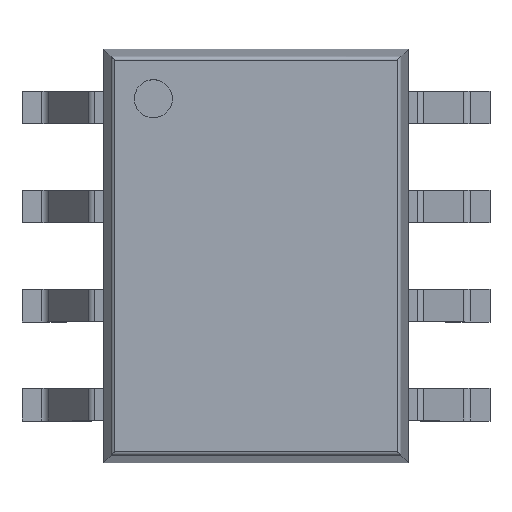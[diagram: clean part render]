
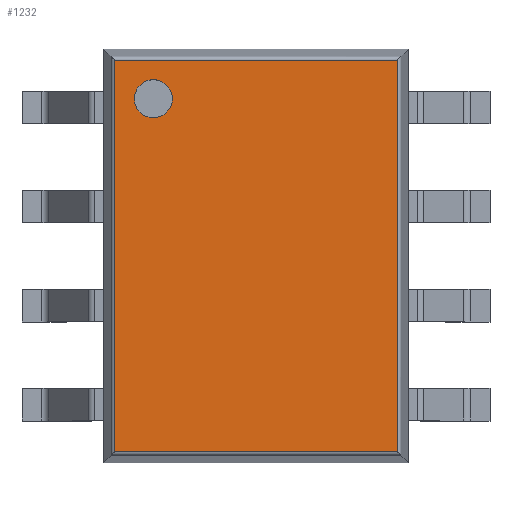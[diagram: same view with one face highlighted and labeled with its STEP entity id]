
A CAD part, top view. The second image highlights one B-rep face of the part: STEP entity #1232.
In plain terms, the highlighted planar face has unit normal (0, 0, 1).
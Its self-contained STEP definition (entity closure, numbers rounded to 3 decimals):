
#829 = CYLINDRICAL_SURFACE('',#830,0.05);
#830 = AXIS2_PLACEMENT_3D('',#831,#832,#833);
#831 = CARTESIAN_POINT('',(-1.809,-2.553,1.7));
#832 = DIRECTION('',(0.,1.,0.));
#833 = DIRECTION('',(-0.992,0.,0.129));
#971 = CYLINDRICAL_SURFACE('',#972,0.05);
#972 = AXIS2_PLACEMENT_3D('',#973,#974,#975);
#973 = CARTESIAN_POINT('',(-1.853,-2.509,1.7));
#974 = DIRECTION('',(1.,0.,0.));
#975 = DIRECTION('',(0.,-0.992,0.129));
#987 = VERTEX_POINT('',#988);
#988 = CARTESIAN_POINT('',(-1.809,-2.509,1.75));
#1022 = EDGE_CURVE('',#987,#1023,#1025,.T.);
#1023 = VERTEX_POINT('',#1024);
#1024 = CARTESIAN_POINT('',(-1.809,2.509,1.75));
#1025 = SURFACE_CURVE('',#1026,(#1030,#1037),.PCURVE_S1.);
#1026 = LINE('',#1027,#1028);
#1027 = CARTESIAN_POINT('',(-1.809,-2.553,1.75));
#1028 = VECTOR('',#1029,1.);
#1029 = DIRECTION('',(0.,1.,0.));
#1030 = PCURVE('',#829,#1031);
#1031 = DEFINITIONAL_REPRESENTATION('',(#1032),#1036);
#1032 = LINE('',#1033,#1034);
#1033 = CARTESIAN_POINT('',(1.442,0.));
#1034 = VECTOR('',#1035,1.);
#1035 = DIRECTION('',(0.,1.));
#1036 = ( GEOMETRIC_REPRESENTATION_CONTEXT(2) 
PARAMETRIC_REPRESENTATION_CONTEXT() REPRESENTATION_CONTEXT('2D SPACE',''
  ) );
#1037 = PCURVE('',#1038,#1043);
#1038 = PLANE('',#1039);
#1039 = AXIS2_PLACEMENT_3D('',#1040,#1041,#1042);
#1040 = CARTESIAN_POINT('',(-1.95,-2.65,1.75));
#1041 = DIRECTION('',(0.,0.,1.));
#1042 = DIRECTION('',(1.,0.,0.));
#1043 = DEFINITIONAL_REPRESENTATION('',(#1044),#1048);
#1044 = LINE('',#1045,#1046);
#1045 = CARTESIAN_POINT('',(0.141,0.098));
#1046 = VECTOR('',#1047,1.);
#1047 = DIRECTION('',(0.,1.));
#1048 = ( GEOMETRIC_REPRESENTATION_CONTEXT(2) 
PARAMETRIC_REPRESENTATION_CONTEXT() REPRESENTATION_CONTEXT('2D SPACE',''
  ) );
#1071 = CYLINDRICAL_SURFACE('',#1072,0.05);
#1072 = AXIS2_PLACEMENT_3D('',#1073,#1074,#1075);
#1073 = CARTESIAN_POINT('',(-1.853,2.509,1.7));
#1074 = DIRECTION('',(1.,0.,0.));
#1075 = DIRECTION('',(0.,0.,1.));
#1159 = CYLINDRICAL_SURFACE('',#1160,0.05);
#1160 = AXIS2_PLACEMENT_3D('',#1161,#1162,#1163);
#1161 = CARTESIAN_POINT('',(1.809,-2.553,1.7));
#1162 = DIRECTION('',(0.,1.,0.));
#1163 = DIRECTION('',(0.,0.,1.));
#1175 = EDGE_CURVE('',#987,#1176,#1178,.T.);
#1176 = VERTEX_POINT('',#1177);
#1177 = CARTESIAN_POINT('',(1.809,-2.509,1.75));
#1178 = SURFACE_CURVE('',#1179,(#1183,#1190),.PCURVE_S1.);
#1179 = LINE('',#1180,#1181);
#1180 = CARTESIAN_POINT('',(-1.853,-2.509,1.75));
#1181 = VECTOR('',#1182,1.);
#1182 = DIRECTION('',(1.,0.,0.));
#1183 = PCURVE('',#971,#1184);
#1184 = DEFINITIONAL_REPRESENTATION('',(#1185),#1189);
#1185 = LINE('',#1186,#1187);
#1186 = CARTESIAN_POINT('',(-1.442,0.));
#1187 = VECTOR('',#1188,1.);
#1188 = DIRECTION('',(-0.,1.));
#1189 = ( GEOMETRIC_REPRESENTATION_CONTEXT(2) 
PARAMETRIC_REPRESENTATION_CONTEXT() REPRESENTATION_CONTEXT('2D SPACE',''
  ) );
#1190 = PCURVE('',#1038,#1191);
#1191 = DEFINITIONAL_REPRESENTATION('',(#1192),#1196);
#1192 = LINE('',#1193,#1194);
#1193 = CARTESIAN_POINT('',(0.098,0.141));
#1194 = VECTOR('',#1195,1.);
#1195 = DIRECTION('',(1.,0.));
#1196 = ( GEOMETRIC_REPRESENTATION_CONTEXT(2) 
PARAMETRIC_REPRESENTATION_CONTEXT() REPRESENTATION_CONTEXT('2D SPACE',''
  ) );
#1232 = ADVANCED_FACE('',(#1233,#1281),#1038,.T.);
#1233 = FACE_BOUND('',#1234,.T.);
#1234 = EDGE_LOOP('',(#1235,#1236,#1237,#1260));
#1235 = ORIENTED_EDGE('',*,*,#1022,.F.);
#1236 = ORIENTED_EDGE('',*,*,#1175,.T.);
#1237 = ORIENTED_EDGE('',*,*,#1238,.T.);
#1238 = EDGE_CURVE('',#1176,#1239,#1241,.T.);
#1239 = VERTEX_POINT('',#1240);
#1240 = CARTESIAN_POINT('',(1.809,2.509,1.75));
#1241 = SURFACE_CURVE('',#1242,(#1246,#1253),.PCURVE_S1.);
#1242 = LINE('',#1243,#1244);
#1243 = CARTESIAN_POINT('',(1.809,-2.553,1.75));
#1244 = VECTOR('',#1245,1.);
#1245 = DIRECTION('',(0.,1.,0.));
#1246 = PCURVE('',#1038,#1247);
#1247 = DEFINITIONAL_REPRESENTATION('',(#1248),#1252);
#1248 = LINE('',#1249,#1250);
#1249 = CARTESIAN_POINT('',(3.759,0.098));
#1250 = VECTOR('',#1251,1.);
#1251 = DIRECTION('',(0.,1.));
#1252 = ( GEOMETRIC_REPRESENTATION_CONTEXT(2) 
PARAMETRIC_REPRESENTATION_CONTEXT() REPRESENTATION_CONTEXT('2D SPACE',''
  ) );
#1253 = PCURVE('',#1159,#1254);
#1254 = DEFINITIONAL_REPRESENTATION('',(#1255),#1259);
#1255 = LINE('',#1256,#1257);
#1256 = CARTESIAN_POINT('',(0.,0.));
#1257 = VECTOR('',#1258,1.);
#1258 = DIRECTION('',(0.,1.));
#1259 = ( GEOMETRIC_REPRESENTATION_CONTEXT(2) 
PARAMETRIC_REPRESENTATION_CONTEXT() REPRESENTATION_CONTEXT('2D SPACE',''
  ) );
#1260 = ORIENTED_EDGE('',*,*,#1261,.F.);
#1261 = EDGE_CURVE('',#1023,#1239,#1262,.T.);
#1262 = SURFACE_CURVE('',#1263,(#1267,#1274),.PCURVE_S1.);
#1263 = LINE('',#1264,#1265);
#1264 = CARTESIAN_POINT('',(-1.853,2.509,1.75));
#1265 = VECTOR('',#1266,1.);
#1266 = DIRECTION('',(1.,0.,0.));
#1267 = PCURVE('',#1038,#1268);
#1268 = DEFINITIONAL_REPRESENTATION('',(#1269),#1273);
#1269 = LINE('',#1270,#1271);
#1270 = CARTESIAN_POINT('',(0.098,5.159));
#1271 = VECTOR('',#1272,1.);
#1272 = DIRECTION('',(1.,0.));
#1273 = ( GEOMETRIC_REPRESENTATION_CONTEXT(2) 
PARAMETRIC_REPRESENTATION_CONTEXT() REPRESENTATION_CONTEXT('2D SPACE',''
  ) );
#1274 = PCURVE('',#1071,#1275);
#1275 = DEFINITIONAL_REPRESENTATION('',(#1276),#1280);
#1276 = LINE('',#1277,#1278);
#1277 = CARTESIAN_POINT('',(-0.,0.));
#1278 = VECTOR('',#1279,1.);
#1279 = DIRECTION('',(-0.,1.));
#1280 = ( GEOMETRIC_REPRESENTATION_CONTEXT(2) 
PARAMETRIC_REPRESENTATION_CONTEXT() REPRESENTATION_CONTEXT('2D SPACE',''
  ) );
#1281 = FACE_BOUND('',#1282,.T.);
#1282 = EDGE_LOOP('',(#1283));
#1283 = ORIENTED_EDGE('',*,*,#1284,.F.);
#1284 = EDGE_CURVE('',#1285,#1285,#1287,.T.);
#1285 = VERTEX_POINT('',#1286);
#1286 = CARTESIAN_POINT('',(-1.071,2.015,1.75));
#1287 = SURFACE_CURVE('',#1288,(#1293,#1300),.PCURVE_S1.);
#1288 = CIRCLE('',#1289,0.244);
#1289 = AXIS2_PLACEMENT_3D('',#1290,#1291,#1292);
#1290 = CARTESIAN_POINT('',(-1.315,2.015,1.75));
#1291 = DIRECTION('',(0.,0.,1.));
#1292 = DIRECTION('',(1.,0.,0.));
#1293 = PCURVE('',#1038,#1294);
#1294 = DEFINITIONAL_REPRESENTATION('',(#1295),#1299);
#1295 = CIRCLE('',#1296,0.244);
#1296 = AXIS2_PLACEMENT_2D('',#1297,#1298);
#1297 = CARTESIAN_POINT('',(0.635,4.665));
#1298 = DIRECTION('',(1.,0.));
#1299 = ( GEOMETRIC_REPRESENTATION_CONTEXT(2) 
PARAMETRIC_REPRESENTATION_CONTEXT() REPRESENTATION_CONTEXT('2D SPACE',''
  ) );
#1300 = PCURVE('',#1301,#1306);
#1301 = CYLINDRICAL_SURFACE('',#1302,0.244);
#1302 = AXIS2_PLACEMENT_3D('',#1303,#1304,#1305);
#1303 = CARTESIAN_POINT('',(-1.315,2.015,1.575));
#1304 = DIRECTION('',(0.,0.,1.));
#1305 = DIRECTION('',(1.,0.,0.));
#1306 = DEFINITIONAL_REPRESENTATION('',(#1307),#1310);
#1307 = B_SPLINE_CURVE_WITH_KNOTS('',1,(#1308,#1309),.UNSPECIFIED.,.F.,
  .F.,(2,2),(0.,6.283),.PIECEWISE_BEZIER_KNOTS.);
#1308 = CARTESIAN_POINT('',(0.,0.175));
#1309 = CARTESIAN_POINT('',(6.283,0.175));
#1310 = ( GEOMETRIC_REPRESENTATION_CONTEXT(2) 
PARAMETRIC_REPRESENTATION_CONTEXT() REPRESENTATION_CONTEXT('2D SPACE',''
  ) );
